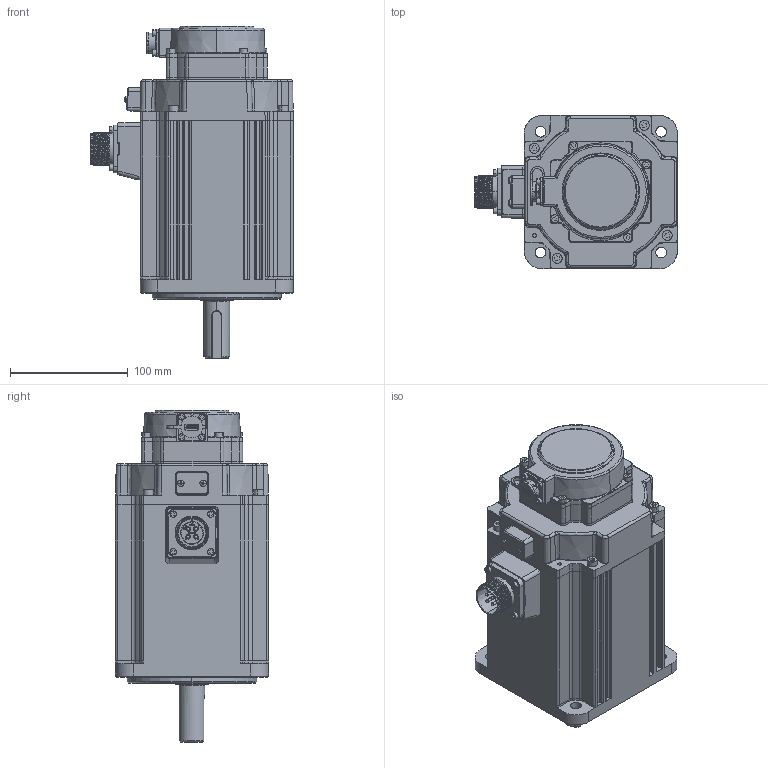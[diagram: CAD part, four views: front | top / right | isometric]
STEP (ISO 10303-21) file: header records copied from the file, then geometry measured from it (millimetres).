
FILE_DESCRIPTION (( 'STEP AP203' ), '1' );
FILE_NAME ('MS6G-130TH15EZ2-22P3.STEP', '2024-06-18T07:43:41', ( '' ), ( '' ), 'SwSTEP 2.0', 'SolidWorks 2022', '' );
FILE_SCHEMA (( 'CONFIG_CONTROL_DESIGN' ));
Length unit declared in the file: millimetre
Products named in the file (1): MS6G-130TH15EZ2-22P3
Bounding box: 172.1 x 130 x 282 mm (x, y, z)
Volume: 3032553.8 mm3; surface area: 253451.2 mm2
Topology: 29 solids, 29 shells, 2945 faces, 7880 edges, 5124 vertices
Faces by surface type: plane 1468, cylinder 698, bspline 464, cone 157, torus 142, sphere 16
Entity records: 109915 total; most frequent: CARTESIAN_POINT 41951, ORIENTED_EDGE 15624, DIRECTION 11691, EDGE_CURVE 7812, VERTEX_POINT 5114, AXIS2_PLACEMENT_3D 3905, VECTOR 3881, LINE 3881
